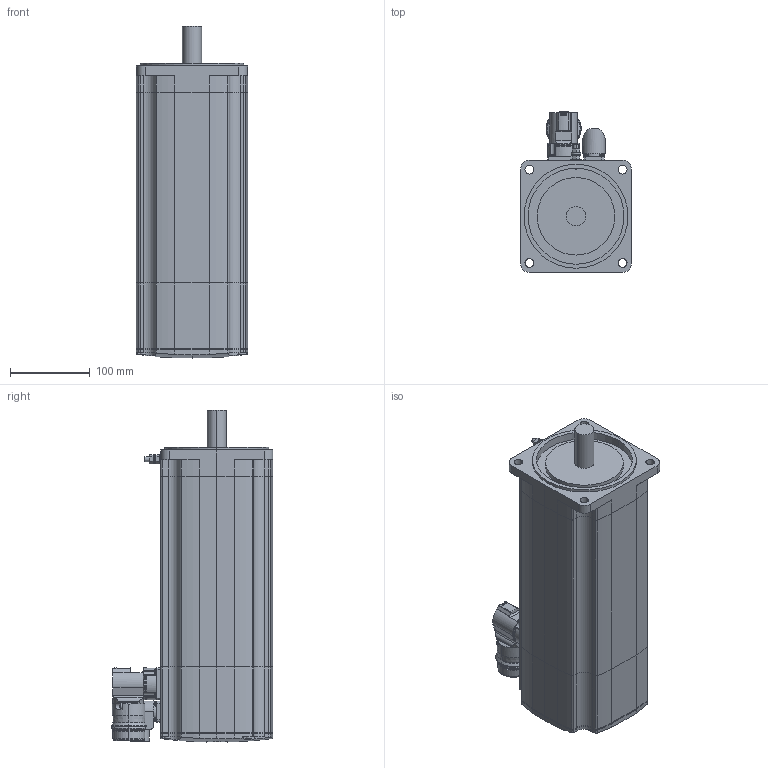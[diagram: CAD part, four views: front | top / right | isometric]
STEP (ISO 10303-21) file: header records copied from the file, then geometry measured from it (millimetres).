
FILE_DESCRIPTION (( 'STEP AP214' ), '1' );
FILE_NAME ('SH31403x0xF2100.STEP', '2013-11-29T10:27:15', ( 'Windows User' ), ( 'Schneider-Electric' ), 'SwSTEP 2.0', 'SolidWorks 2010', '' );
FILE_SCHEMA (( 'AUTOMOTIVE_DESIGN' ));
Length unit declared in the file: millimetre
Products named in the file (9): 1-100005039_DECKEL SH3-140X-X_VM0_Deckel; 1-100010983_K-FLACHDICHTUNG BMH-MH3-140X_000; 1-100009373_LAGERSCHILD SH3-140X-F_VM0_Lagerschild SH3-140x-F-M23 und M40; 1-100010761_K-GEHÄUSE SH3-140X_VM0_Gehäuse SH3-1403-F; 1-100010773_K-FLANSCH SH3-140X_VM0_Flansch SH3-140x mit Welle ohne Passfeder; 1-100009587_K-ERDUNGSBOLZEN M6_VM1; K-ENCODER-CONINVERS-ABGEW_ENCODER-CONINVERS-ABGEWINKELT_000_Single- MultiTurn; 1-100010211_POWER M40 ABGEWINKELT VEREINFACHT_000_ohne Bremse; SH31403x0xF2100
Assembly tree (8 placements, depth 2):
  SH31403x0xF2100
    1-100010761_K-GEHÄUSE SH3-140X_VM0_Gehäuse SH3-1403-F
    1-100010773_K-FLANSCH SH3-140X_VM0_Flansch SH3-140x mit Welle ohne Passfeder
    1-100009587_K-ERDUNGSBOLZEN M6_VM1
    K-ENCODER-CONINVERS-ABGEW_ENCODER-CONINVERS-ABGEWINKELT_000_Single- MultiTurn
    1-100010211_POWER M40 ABGEWINKELT VEREINFACHT_000_ohne Bremse
    1-100010983_K-FLACHDICHTUNG BMH-MH3-140X_000
    1-100005039_DECKEL SH3-140X-X_VM0_Deckel
    1-100009373_LAGERSCHILD SH3-140X-F_VM0_Lagerschild SH3-140x-F-M23 und M40
Bounding box: 140 x 202 x 415.35 mm (x, y, z)
Volume: 6427068.7 mm3; surface area: 406265 mm2
Topology: 8 solids, 8 shells, 759 faces, 1936 edges, 1254 vertices
Faces by surface type: cylinder 345, plane 325, bspline 54, cone 23, torus 8, sphere 4
Entity records: 30696 total; most frequent: CARTESIAN_POINT 7903, DIRECTION 3954, ORIENTED_EDGE 3844, EDGE_CURVE 1922, AXIS2_PLACEMENT_3D 1482, VERTEX_POINT 1254, VECTOR 990, LINE 990
